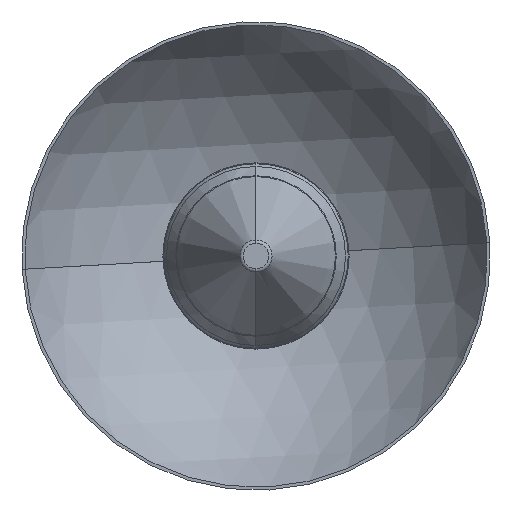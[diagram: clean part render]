
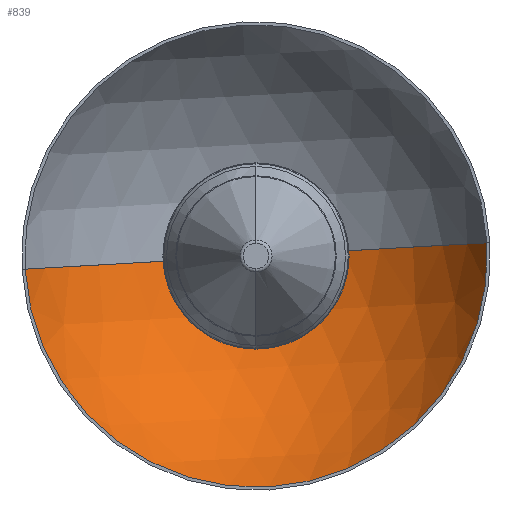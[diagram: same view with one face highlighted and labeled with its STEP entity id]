
A CAD part, front view. The second image highlights one B-rep face of the part: STEP entity #839.
In plain terms, the highlighted spherical face has radius 136.156 mm.
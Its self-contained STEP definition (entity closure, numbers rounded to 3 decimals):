
#13 = FACE_OUTER_BOUND ( 'NONE', #2253, .T. ) ;
#65 = DIRECTION ( 'NONE',  ( 0., -1., 0. ) ) ;
#105 = CIRCLE ( 'NONE', #2465, 123.346 ) ;
#186 = CIRCLE ( 'NONE', #1286, 136.156 ) ;
#204 = VERTEX_POINT ( 'NONE', #1247 ) ;
#263 = AXIS2_PLACEMENT_3D ( 'NONE', #902, #2588, #1483 ) ;
#332 = DIRECTION ( 'NONE',  ( 0., -1., 0. ) ) ;
#377 = ORIENTED_EDGE ( 'NONE', *, *, #1612, .F. ) ;
#462 = ORIENTED_EDGE ( 'NONE', *, *, #3053, .T. ) ;
#646 = CIRCLE ( 'NONE', #2852, 5. ) ;
#776 = AXIS2_PLACEMENT_3D ( 'NONE', #3421, #3689, #1997 ) ;
#839 = ADVANCED_FACE ( 'NONE', ( #13 ), #2539, .F. ) ;
#858 = CARTESIAN_POINT ( 'NONE',  ( 245.695, -183.296, 1610. ) ) ;
#876 = DIRECTION ( 'NONE',  ( 0.057, 0., -0.998 ) ) ;
#902 = CARTESIAN_POINT ( 'NONE',  ( 245.695, -240.952, 1610. ) ) ;
#969 = EDGE_CURVE ( 'NONE', #1213, #1773, #186, .T. ) ;
#1094 = DIRECTION ( 'NONE',  ( 0., -1., 0. ) ) ;
#1213 = VERTEX_POINT ( 'NONE', #2439 ) ;
#1226 = CARTESIAN_POINT ( 'NONE',  ( 245.695, -104.888, 1610. ) ) ;
#1247 = CARTESIAN_POINT ( 'NONE',  ( 122.549, -183.296, 1602.976 ) ) ;
#1286 = AXIS2_PLACEMENT_3D ( 'NONE', #1512, #2695, #2366 ) ;
#1483 = DIRECTION ( 'NONE',  ( 0.998, 0., 0.057 ) ) ;
#1512 = CARTESIAN_POINT ( 'NONE',  ( 245.695, -240.952, 1610. ) ) ;
#1612 = EDGE_CURVE ( 'NONE', #1974, #2832, #646, .T. ) ;
#1698 = ORIENTED_EDGE ( 'NONE', *, *, #969, .F. ) ;
#1773 = VERTEX_POINT ( 'NONE', #3179 ) ;
#1808 = EDGE_CURVE ( 'NONE', #2832, #1213, #2128, .T. ) ;
#1950 = DIRECTION ( 'NONE',  ( 0.057, 0., -0.998 ) ) ;
#1974 = VERTEX_POINT ( 'NONE', #2157 ) ;
#1997 = DIRECTION ( 'NONE',  ( 0.998, 0., 0.057 ) ) ;
#2128 = CIRCLE ( 'NONE', #2928, 5. ) ;
#2157 = CARTESIAN_POINT ( 'NONE',  ( 240.703, -104.888, 1609.715 ) ) ;
#2253 = EDGE_LOOP ( 'NONE', ( #377, #3508, #462, #1698, #2408 ) ) ;
#2366 = DIRECTION ( 'NONE',  ( -0.998, 0., -0.057 ) ) ;
#2408 = ORIENTED_EDGE ( 'NONE', *, *, #1808, .F. ) ;
#2439 = CARTESIAN_POINT ( 'NONE',  ( 250.687, -104.888, 1610.285 ) ) ;
#2465 = AXIS2_PLACEMENT_3D ( 'NONE', #858, #332, #876 ) ;
#2539 = SPHERICAL_SURFACE ( 'NONE', #263, 136.156 ) ;
#2588 = DIRECTION ( 'NONE',  ( -0.057, 0., 0.998 ) ) ;
#2593 = CARTESIAN_POINT ( 'NONE',  ( 245.98, -104.888, 1605.008 ) ) ;
#2695 = DIRECTION ( 'NONE',  ( 0.057, 0., -0.998 ) ) ;
#2711 = EDGE_CURVE ( 'NONE', #1974, #204, #3500, .T. ) ;
#2832 = VERTEX_POINT ( 'NONE', #2593 ) ;
#2852 = AXIS2_PLACEMENT_3D ( 'NONE', #3635, #1094, #1950 ) ;
#2928 = AXIS2_PLACEMENT_3D ( 'NONE', #1226, #65, #3192 ) ;
#3053 = EDGE_CURVE ( 'NONE', #204, #1773, #105, .T. ) ;
#3179 = CARTESIAN_POINT ( 'NONE',  ( 368.841, -183.296, 1617.024 ) ) ;
#3192 = DIRECTION ( 'NONE',  ( 0.057, 0., -0.998 ) ) ;
#3421 = CARTESIAN_POINT ( 'NONE',  ( 245.695, -240.952, 1610. ) ) ;
#3500 = CIRCLE ( 'NONE', #776, 136.156 ) ;
#3508 = ORIENTED_EDGE ( 'NONE', *, *, #2711, .T. ) ;
#3635 = CARTESIAN_POINT ( 'NONE',  ( 245.695, -104.888, 1610. ) ) ;
#3689 = DIRECTION ( 'NONE',  ( -0.057, 0., 0.998 ) ) ;
